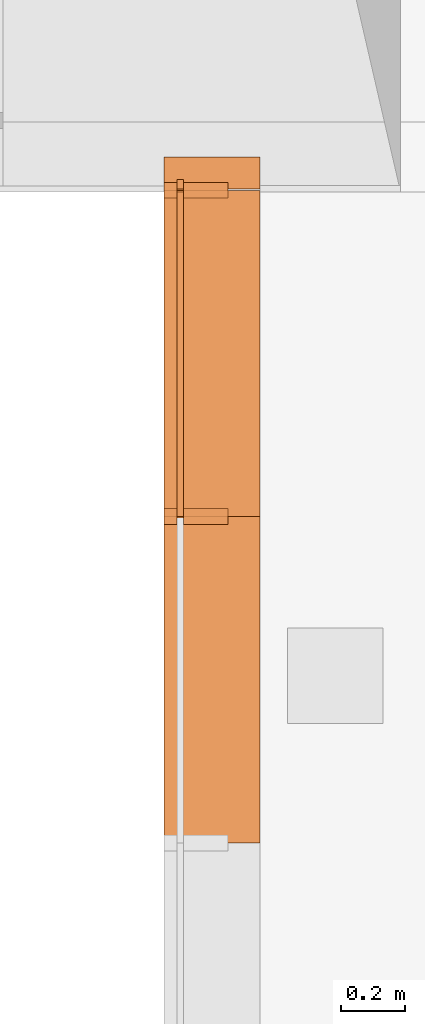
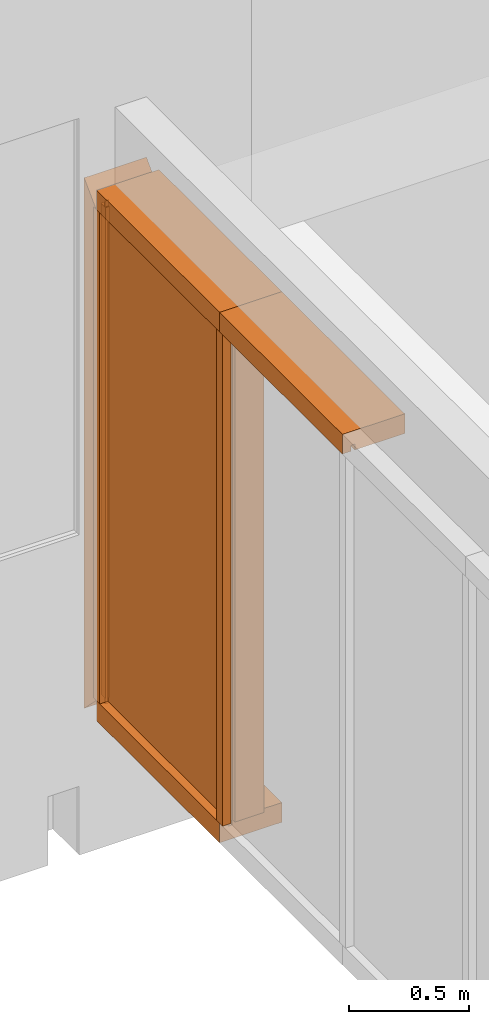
# One storey, part 188 of 194: 8 proxies, 1 element without a shape of its own.
"""IFC2X3 building model written with IfcOpenShell, lengths in millimetres."""

import ifcopenshell
import ifcopenshell.guid

model = None  # the IFC model being written
_history = None  # IfcOwnerHistory: only IFC2X3 demands one
_inside = {}  # id of a spatial element -> (the spatial element, [elements in it])
_under = {}  # id of a project, library or spatial element -> (it, [spatial elements below it])
_declared = {}  # id of a project -> (the project, [libraries it declares])
_typed = {}  # id of a type object -> (the type object, [elements of that type])
_made_of = {}  # id of a material, layer set ... -> (it, [elements and type objects made of it])


def new_model(schema):
    """Start an empty IFC model of exactly this schema.

    Asked for "IFC4X3", IfcOpenShell would pick the latest addendum, in which some entities
    have other attributes; the version numbers below select the first issue.
    IFC2X3 requires an IfcOwnerHistory on every rooted entity: one is made here for all.
    """
    global model, _history
    if schema == "IFC4X3":
        model = ifcopenshell.file(schema_version=(4, 3, 0, 0))
    else:
        model = ifcopenshell.file(schema=schema)
    _inside.clear()
    _under.clear()
    _declared.clear()
    _typed.clear()
    _made_of.clear()
    _history = None
    if model.schema == "IFC2X3":
        org = make("IfcOrganization", Name="unknown")
        user = make(
            "IfcPersonAndOrganization",
            ThePerson=make("IfcPerson", FamilyName="unknown"),
            TheOrganization=org,
        )
        app = make(
            "IfcApplication",
            ApplicationDeveloper=org,
            Version="unknown",
            ApplicationFullName="unknown",
            ApplicationIdentifier="unknown",
        )
        _history = make(
            "IfcOwnerHistory",
            OwningUser=user,
            OwningApplication=app,
            ChangeAction="ADDED",
            CreationDate=0,
        )
    return model


def make(cls, **values):
    """One entity of the class cls with the attributes given. An attribute that is None is left unset."""
    return model.create_entity(
        cls, **{name: value for name, value in values.items() if value is not None}
    )


def entity(cls, *values):
    """Any entity or typed value of the class cls, its attributes in the order of the schema. None: left unset."""
    e = model.create_entity(cls)
    for i, value in enumerate(values):
        if value is not None:
            e[i] = value
    return e


def rooted(cls, **values):
    """An entity with a GlobalId (a new one), such as an element, a storey or a relation."""
    return make(cls, GlobalId=ifcopenshell.guid.new(), OwnerHistory=_history, **values)


def si_unit(unit_type, name, prefix=None):
    """IfcSIUnit, for example si_unit("LENGTHUNIT", "METRE", prefix="MILLI")."""
    return make("IfcSIUnit", UnitType=unit_type, Prefix=prefix, Name=name)


def converted_unit(unit_type, name, factor, base, dimensions=None, offset=None):
    """IfcConversionBasedUnit, such as the inch: factor (a typed value) times the base unit."""
    return make(
        "IfcConversionBasedUnit"
        if offset is None
        else "IfcConversionBasedUnitWithOffset",
        ConversionOffset=offset,
        Dimensions=None
        if dimensions is None
        else entity("IfcDimensionalExponents", *dimensions),
        UnitType=unit_type,
        Name=name,
        ConversionFactor=make(
            "IfcMeasureWithUnit", ValueComponent=factor, UnitComponent=base
        ),
    )


def derived_unit(unit_type, elements):
    """IfcDerivedUnit: a product of units, each with its exponent."""
    return make(
        "IfcDerivedUnit",
        Elements=[
            make("IfcDerivedUnitElement", Unit=unit, Exponent=power)
            for unit, power in elements
        ],
        UnitType=unit_type,
    )


def money_unit(currency):
    """IfcMonetaryUnit."""
    return make("IfcMonetaryUnit", Currency=currency)


def assignment(units):
    """IfcUnitAssignment: the units of a project."""
    return None if units is None else make("IfcUnitAssignment", Units=units)


def point(xyz):
    """IfcCartesianPoint."""
    return None if xyz is None else make("IfcCartesianPoint", Coordinates=xyz)


def direction(xyz):
    """IfcDirection."""
    return None if xyz is None else make("IfcDirection", DirectionRatios=xyz)


def frame(location, z_axis=None, x_axis=None):
    """IfcAxis2Placement3D, a coordinate frame: its origin and axes. An axis left out is left unset."""
    return make(
        "IfcAxis2Placement3D",
        Location=point(location),
        Axis=direction(z_axis),
        RefDirection=direction(x_axis),
    )


def origin_with_axes():
    """The frame at (0, 0, 0) with the z axis (0, 0, 1) and the x axis (1, 0, 0) written out."""
    return frame((0.0, 0.0, 0.0), z_axis=(0.0, 0.0, 1.0), x_axis=(1.0, 0.0, 0.0))


def place(relative_to, where):
    """IfcLocalPlacement: puts the frame where relative to a parent placement (None: the world)."""
    return make(
        "IfcLocalPlacement", PlacementRelTo=relative_to, RelativePlacement=where
    )


def context(
    kind, dimensions, precision=None, world=None, true_north=None, identifier=None
):
    """IfcGeometricRepresentationContext, for example the 3D "Model" context."""
    return make(
        "IfcGeometricRepresentationContext",
        ContextIdentifier=identifier,
        ContextType=kind,
        CoordinateSpaceDimension=dimensions,
        Precision=precision,
        WorldCoordinateSystem=world,
        TrueNorth=true_north,
    )


def subcontext(parent, identifier, kind, view, scale=None):
    """IfcGeometricRepresentationSubContext, for example "Body" below "Model"."""
    return make(
        "IfcGeometricRepresentationSubContext",
        ContextIdentifier=identifier,
        ContextType=kind,
        ParentContext=parent,
        TargetScale=scale,
        TargetView=view,
    )


def project(units=None, contexts=None):
    """IfcProject with its units and contexts."""
    return rooted(
        "IfcProject",
        Name="project",
        RepresentationContexts=contexts,
        UnitsInContext=assignment(units),
    )


def spatial(cls, under=None, at=None, **own):
    """A site, building, storey or space (cls), placed at a placement, below another one or the project."""
    s = rooted(cls, ObjectPlacement=at, **own)
    if under is not None:
        _under.setdefault(under.id(), (under, []))[1].append(s)
    return s


def polyline(points):
    """IfcPolyline through the points."""
    return make("IfcPolyline", Points=[point(p) for p in points])


def outline(outer, holes=None, kind="AREA"):
    """IfcArbitraryClosedProfileDef: a profile drawn as a closed curve; with holes, ...WithVoids."""
    if holes is None:
        return make("IfcArbitraryClosedProfileDef", ProfileType=kind, OuterCurve=outer)
    return make(
        "IfcArbitraryProfileDefWithVoids",
        ProfileType=kind,
        OuterCurve=outer,
        InnerCurves=holes,
    )


def extrude(swept, where, along, depth):
    """IfcExtrudedAreaSolid: the profile swept, set in the frame where, extruded along a direction by depth."""
    return make(
        "IfcExtrudedAreaSolid",
        SweptArea=swept,
        Position=where,
        ExtrudedDirection=direction(along),
        Depth=depth,
    )


def clip(a, b, op="DIFFERENCE"):
    """IfcBooleanClippingResult: the solid a cut by the half space b."""
    return make(
        "IfcBooleanClippingResult", Operator=op, FirstOperand=a, SecondOperand=b
    )


def halfspace(plane, agree):
    """IfcHalfSpaceSolid: all space on one side of the plane z = 0 of the frame plane."""
    return make(
        "IfcHalfSpaceSolid",
        BaseSurface=make("IfcPlane", Position=plane),
        AgreementFlag=agree,
    )


def shape(context_of_items, identifier, shape_type, items):
    """IfcShapeRepresentation: the items that make up one representation, for example the "Body"."""
    return make(
        "IfcShapeRepresentation",
        ContextOfItems=context_of_items,
        RepresentationIdentifier=identifier,
        RepresentationType=shape_type,
        Items=items,
    )


def material(Name=None, Category=None):
    """IfcMaterial."""
    return make("IfcMaterial", Name=Name, Category=Category)


def material_list(materials):
    """IfcMaterialList."""
    return make("IfcMaterialList", Materials=materials)


def made_of(thing, what):
    """Note that an element or type object is made of a material, layer set ...; save() writes the relation."""
    if what is not None:
        _made_of.setdefault(what.id(), (what, []))[1].append(thing)
    return thing


def type_object(cls, material=None, **own):
    """A type object (cls), such as IfcWallType, which elements share."""
    return made_of(rooted(cls, **own), material)


def element(
    cls,
    number,
    at=None,
    inside=None,
    cuts=None,
    type_object=None,
    material=None,
    context=None,
    identifier="Body",
    shape_type=None,
    held_by="IfcProductDefinitionShape",
    body=None,
    shapes=None,
    **own,
):
    """One element of the class cls, such as IfcWall. Its Tag is "e" and its number.

    at: its placement. inside: the storey or other place that contains it. cuts: it is an
    opening in that element (IfcRelVoidsElement). A single representation is given by context,
    identifier, shape_type and body (its items); several are given by shapes. held_by: the class
    of the entity that holds the representations. save() writes the other relations.
    """
    e = rooted(cls, Tag="e%d" % number, ObjectPlacement=at, **own)
    if body is not None:
        shapes = [shape(context, identifier, shape_type, body)]
    if shapes is not None:
        e.Representation = make(held_by, Representations=shapes)
    if inside is not None:
        _inside.setdefault(inside.id(), (inside, []))[1].append(e)
    if cuts is not None:
        rooted(
            "IfcRelVoidsElement", RelatingBuildingElement=cuts, RelatedOpeningElement=e
        )
    if type_object is not None:
        _typed.setdefault(type_object.id(), (type_object, []))[1].append(e)
    return made_of(e, material)


def aggregate(whole, parts):
    """IfcRelAggregates: a whole, such as a stair, and the parts it consists of."""
    return rooted("IfcRelAggregates", RelatingObject=whole, RelatedObjects=parts)


def save(model, path):
    """Write the relations noted so far, then the file.

    IfcRelAggregates (storeys below a building ...), IfcRelContainedInSpatialStructure (elements
    in a storey), IfcRelDefinesByType, IfcRelAssociatesMaterial and IfcRelDeclares: one each for
    every whole, place, type object, material and project.
    """
    for whole, parts in _under.values():
        aggregate(whole, parts)
    for where, things in _inside.values():
        rooted(
            "IfcRelContainedInSpatialStructure",
            RelatedElements=things,
            RelatingStructure=where,
        )
    for kind, things in _typed.values():
        rooted("IfcRelDefinesByType", RelatedObjects=things, RelatingType=kind)
    for what, things in _made_of.values():
        rooted("IfcRelAssociatesMaterial", RelatedObjects=things, RelatingMaterial=what)
    for by, libraries in _declared.values():
        rooted("IfcRelDeclares", RelatingContext=by, RelatedDefinitions=libraries)
    model.write(path)


model = new_model("IFC2X3")

# Units and contexts
model_context = context("Model", 3, precision=1e-05, world=origin_with_axes(), true_north=direction((0.0, 1.0)))
body_context = subcontext(model_context, "Body", "Model", "MODEL_VIEW")
ifc_project = project(units=[si_unit("LENGTHUNIT", "METRE", prefix="MILLI"), si_unit("AREAUNIT", "SQUARE_METRE"), si_unit("VOLUMEUNIT", "CUBIC_METRE"), converted_unit("PLANEANGLEUNIT", "DEGREE", entity("IfcPlaneAngleMeasure", 0.0174532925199), si_unit("PLANEANGLEUNIT", "RADIAN"), dimensions=[0, 0, 0, 0, 0, 0, 0]), si_unit("SOLIDANGLEUNIT", "STERADIAN"), money_unit("EUR"), converted_unit("TIMEUNIT", "Year", entity("IfcTimeMeasure", 31556926.0), si_unit("TIMEUNIT", "SECOND"), dimensions=[0, 0, 1, 0, 0, 0, 0]), si_unit("MASSUNIT", "GRAM", prefix="KILO"), si_unit("THERMODYNAMICTEMPERATUREUNIT", "DEGREE_CELSIUS"), si_unit("LUMINOUSINTENSITYUNIT", "LUMEN"), si_unit("ENERGYUNIT", "JOULE", prefix="MEGA"), derived_unit("THERMALCONDUCTANCEUNIT", [(si_unit("POWERUNIT", "WATT"), 1), (si_unit("LENGTHUNIT", "METRE"), -1), (si_unit("THERMODYNAMICTEMPERATUREUNIT", "KELVIN"), -1)]), derived_unit("SPECIFICHEATCAPACITYUNIT", [(si_unit("ENERGYUNIT", "JOULE"), 1), (si_unit("MASSUNIT", "GRAM", prefix="KILO"), -1), (si_unit("THERMODYNAMICTEMPERATUREUNIT", "KELVIN"), -1)]), derived_unit("MASSDENSITYUNIT", [(si_unit("MASSUNIT", "GRAM", prefix="KILO"), 1), (si_unit("VOLUMEUNIT", "CUBIC_METRE"), -1)])], contexts=[model_context])

# Site, building, storey
site_placement = place(None, origin_with_axes())
site = spatial("IfcSite", under=ifc_project, at=site_placement, Name="Site", CompositionType="ELEMENT")
building_placement = place(site_placement, origin_with_axes())
building = spatial("IfcBuilding", under=site, at=building_placement, Name="Building", CompositionType="ELEMENT")
storey_placement = place(building_placement, frame((0.0, 0.0, 3000.0), z_axis=(0.0, 0.0, 1.0), x_axis=(1.0, 0.0, 0.0)))
storey = spatial("IfcBuildingStorey", under=building, at=storey_placement, Name="2 KORRUS", CompositionType="ELEMENT", Elevation=3000.0)

# Curtain wall, proxies
curtain_wall_type = type_object("IfcCurtainWallType", Name="KS-2", PredefinedType="NOTDEFINED")
curtain_wall_placement = place(storey_placement, frame((37291.3079908, 33624.5964496, -0.000166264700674), z_axis=(0.0, 0.0, 1.0), x_axis=(1.0, 0.0, 0.0)))
curtain_wall = element("IfcCurtainWall", 1, at=curtain_wall_placement, inside=storey, type_object=curtain_wall_type, Name="KS")
ifc_material_1 = material(Name="Klaas (1)")
building_element_proxy_type_1 = type_object("IfcBuildingElementProxyType", Name="Panel-Main-401", PredefinedType="NOTDEFINED")
proxy_1_placement = place(curtain_wall_placement, frame((0.0, 0.0, 1250.00017528), z_axis=(0.0, 0.0, 1.0), x_axis=(0.0, -1.0, 0.0)))
proxy_1 = element("IfcBuildingElementProxy", 2, at=proxy_1_placement, type_object=building_element_proxy_type_1, material=ifc_material_1, Name="Klaas (1);  Objekti nimi: Built-in CW Panel", context=body_context, shape_type="SweptSolid", body=[
    extrude(outline(polyline([(-512.500017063, -1280.00017528), (512.499994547, -1280.00017528), (512.499994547, -1250.0001807), (517.5, -1250.0001807), (517.5, 1250.0001807), (512.499994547, 1250.0001807), (512.499994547, 1280.00017528), (-512.499978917, 1280.00017528), (-512.499978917, 1250.0001807), (-517.499984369, 1250.0001807), (-517.499984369, -1250.0001807), (-512.500017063, -1250.0001807), (-512.500017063, -1280.00017528)])), frame((0.0, -9.99999999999, 0.0), z_axis=(0.0, 1.0, 0.0), x_axis=(1.0, 0.0, 0.0)), (0.0, 0.0, 1.0), 20.0),
])
building_element_proxy_type_2 = type_object("IfcBuildingElementProxyType", Name="Panel-Main-402", PredefinedType="NOTDEFINED")
proxy_2_placement = place(curtain_wall_placement, frame((0.0, 514.520520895, 1250.00017528), z_axis=(0.0, 0.0, 1.0), x_axis=(0.0, -1.0, 0.0)))
proxy_2 = element("IfcBuildingElementProxy", 3, at=proxy_2_placement, type_object=building_element_proxy_type_2, material=ifc_material_1, Name="Klaas (1);  Objekti nimi: Built-in CW Panel", context=body_context, shape_type="SweptSolid", body=[
    extrude(outline(polyline([(-2.02051222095, -1280.00017528), (2.02051544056, -1280.00017528), (2.02051544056, -1250.0001807), (7.02052089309, -1250.0001807), (7.02052089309, 1250.0001807), (2.02051544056, 1250.0001807), (2.02051544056, 1280.00017528), (-2.02051222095, 1280.00017528), (-2.02055036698, 1250.0001807), (-32.0205067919, 1250.0001807), (-32.0205067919, -1250.0001807), (-2.02051222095, -1250.0001807), (-2.02051222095, -1280.00017528)])), frame((0.0, -9.99999999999, 0.0), z_axis=(0.0, 1.0, 0.0), x_axis=(1.0, 0.0, 0.0)), (0.0, 0.0, 1.0), 20.0),
])
ifc_material_2 = material(Name="Alumiinium (1)")
building_element_proxy_type_3 = type_object("IfcBuildingElementProxyType", Name="Frame-Bnd-322", PredefinedType="NOTDEFINED")
proxy_3_placement = place(curtain_wall_placement, frame((0.0, -512.500000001, 2500.00035055), z_axis=(0.0, 1.0, 0.0), x_axis=(0.0, 0.0, 1.0)))
proxy_3 = element("IfcBuildingElementProxy", 4, at=proxy_3_placement, type_object=building_element_proxy_type_3, material=ifc_material_2, Name="Alumiinium (1);  Objekti nimi: Built-in Frame", context=body_context, shape_type="SweptSolid", body=[
    extrude(outline(polyline([(9.99999999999, -30.0), (-9.99999999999, -30.0), (-9.99999999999, 0.0), (-50.0, 0.0), (-50.0, -100.0), (250.0, -100.0), (250.0, 0.0), (9.99999999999, 0.0), (9.99999999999, -30.0)])), frame((0.0, 0.0, 0.0), z_axis=(0.0, 0.0, 1.0), x_axis=(0.0, 1.0, 0.0)), (0.0, 0.0, 1.0), 1025.0),
])
building_element_proxy_type_4 = type_object("IfcBuildingElementProxyType", Name="Frame-Bnd-320", PredefinedType="NOTDEFINED")
proxy_4_placement = place(curtain_wall_placement, frame((0.0, 516.541041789, 0.0), z_axis=(0.0, 0.0, 1.0), x_axis=(0.0, -1.0, 0.0)))
proxy_4 = element("IfcBuildingElementProxy", 5, at=proxy_4_placement, type_object=building_element_proxy_type_4, material=ifc_material_2, Name="Alumiinium (1);  Objekti nimi: Built-in Frame", context=body_context, shape_type="Clipping", body=[
    clip(clip(extrude(outline(polyline([(9.99999999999, 29.9999999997), (9.99999999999, 0.0), (250.0, 0.0), (250.0, 100.0), (-50.0, 100.0), (-50.0, 0.0), (-9.99999999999, 0.0), (-9.99999999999, 29.9999999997), (9.99999999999, 29.9999999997)])), frame((0.0, 0.0, -100.0), z_axis=(0.0, 0.0, 1.0), x_axis=(0.0, 1.0, 0.0)), (0.0, 0.0, 1.0), 2700.00035055), halfspace(frame((1250.00017528, 0.0, 1250.00017528), z_axis=(-0.707106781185, 0.0, -0.707106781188), x_axis=(0.0, 1.0, 0.0)), True)), halfspace(frame((1.85952919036e-10, 0.0, -1.85952919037e-10), z_axis=(-0.707106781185, 0.0, 0.707106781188), x_axis=(0.0, -1.0, 0.0)), True)),
])
ifc_material_list = material_list([ifc_material_2, ifc_material_2])
building_element_proxy_type_5 = type_object("IfcBuildingElementProxyType", Name="Frame-Mll-588", PredefinedType="NOTDEFINED")
proxy_5_placement = place(curtain_wall_placement, frame((0.0, -512.500000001, 0.0), z_axis=(0.0, 0.0, 1.0), x_axis=(0.0, -1.0, 0.0)))
proxy_5 = element("IfcBuildingElementProxy", 6, at=proxy_5_placement, type_object=building_element_proxy_type_5, material=ifc_material_list, Name="Alumiinium (1);  Objekti nimi: Frame 22", context=body_context, shape_type="SweptSolid", body=[
    extrude(outline(polyline([(9.99999999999, -24.9999999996), (150.0, -24.9999999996), (150.0, 24.9999999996), (9.99999999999, 24.9999999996), (9.99999999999, -24.9999999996)])), frame((0.0, 0.0, 0.0), z_axis=(0.0, 0.0, 1.0), x_axis=(0.0, 1.0, 0.0)), (0.0, 0.0, 1.0), 2500.00035055),
    extrude(outline(polyline([(-9.99999999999, 24.9999999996), (-50.0, 24.9999999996), (-50.0, -24.9999999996), (-9.99999999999, -24.9999999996), (-9.99999999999, 24.9999999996)])), frame((0.0, 0.0, 0.0), z_axis=(0.0, 0.0, 1.0), x_axis=(0.0, 1.0, 0.0)), (0.0, 0.0, 1.0), 2500.00035055),
])
proxy_6_placement = place(curtain_wall_placement, frame((0.0, 512.500000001, 0.0), z_axis=(0.0, 0.0, 1.0), x_axis=(0.0, -1.0, 0.0)))
proxy_6 = element("IfcBuildingElementProxy", 7, at=proxy_6_placement, type_object=building_element_proxy_type_5, material=ifc_material_list, Name="Alumiinium (1);  Objekti nimi: Frame 22", context=body_context, shape_type="SweptSolid", body=[
    extrude(outline(polyline([(9.99999999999, -24.9999999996), (150.0, -24.9999999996), (150.0, 24.9999999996), (9.99999999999, 24.9999999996), (9.99999999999, -24.9999999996)])), frame((0.0, 0.0, 0.0), z_axis=(0.0, 0.0, 1.0), x_axis=(0.0, 1.0, 0.0)), (0.0, 0.0, 1.0), 2500.00035055),
    extrude(outline(polyline([(-9.99999999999, 24.9999999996), (-50.0, 24.9999999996), (-50.0, -24.9999999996), (-9.99999999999, -24.9999999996), (-9.99999999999, 24.9999999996)])), frame((0.0, 0.0, 0.0), z_axis=(0.0, 0.0, 1.0), x_axis=(0.0, 1.0, 0.0)), (0.0, 0.0, 1.0), 2500.00035055),
])
building_element_proxy_type_6 = type_object("IfcBuildingElementProxyType", Name="Frame-Bnd-318", PredefinedType="NOTDEFINED")
proxy_7_placement = place(curtain_wall_placement, frame((0.0, -512.500000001, 0.0), z_axis=(0.0, 1.0, 0.0), x_axis=(0.0, 0.0, 1.0)))
proxy_7 = element("IfcBuildingElementProxy", 8, at=proxy_7_placement, type_object=building_element_proxy_type_6, material=ifc_material_2, Name="Alumiinium (1);  Objekti nimi: Built-in Frame", context=body_context, shape_type="SweptSolid", body=[
    extrude(outline(polyline([(9.99999999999, 30.0), (9.99999999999, 0.0), (250.0, 0.0), (250.0, 100.0), (-50.0, 100.0), (-50.0, 0.0), (-9.99999999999, 0.0), (-9.99999999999, 30.0), (9.99999999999, 30.0)])), frame((0.0, 0.0, 0.0), z_axis=(0.0, 0.0, 1.0), x_axis=(0.0, 1.0, 0.0)), (0.0, 0.0, 1.0), 1025.0),
])
building_element_proxy_type_7 = type_object("IfcBuildingElementProxyType", Name="Frame-Bnd-323", PredefinedType="NOTDEFINED")
proxy_8_placement = place(curtain_wall_placement, frame((0.0, -1537.5, 2500.00035055), z_axis=(0.0, 1.0, 0.0), x_axis=(0.0, 0.0, 1.0)))
proxy_8 = element("IfcBuildingElementProxy", 9, at=proxy_8_placement, type_object=building_element_proxy_type_7, material=ifc_material_2, Name="Alumiinium (1);  Objekti nimi: Built-in Frame", context=body_context, shape_type="SweptSolid", body=[
    extrude(outline(polyline([(9.99999999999, -30.0), (-9.99999999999, -30.0), (-9.99999999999, 0.0), (-50.0, 0.0), (-50.0, -100.0), (250.0, -100.0), (250.0, 0.0), (9.99999999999, 0.0), (9.99999999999, -30.0)])), frame((0.0, 0.0, 0.0), z_axis=(0.0, 0.0, 1.0), x_axis=(0.0, 1.0, 0.0)), (0.0, 0.0, 1.0), 1025.0),
])
aggregate(curtain_wall, [proxy_1, proxy_2, proxy_3, proxy_4, proxy_7, proxy_5, proxy_6, proxy_8])

save(model, "model.ifc")
